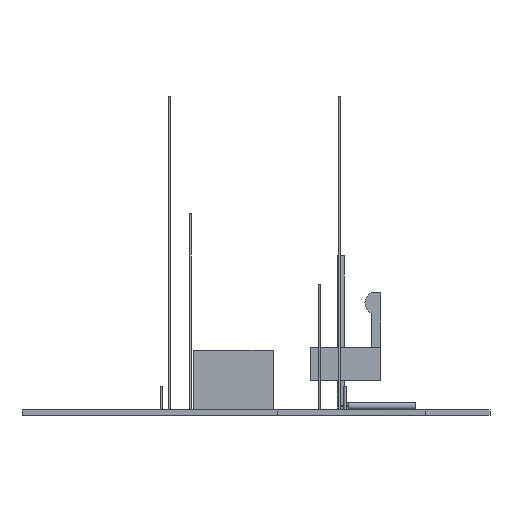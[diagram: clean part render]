
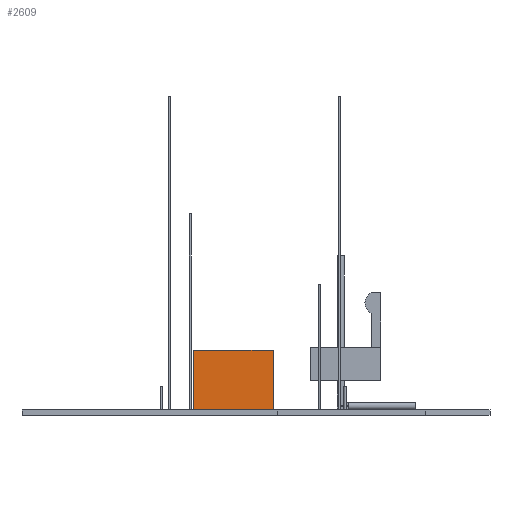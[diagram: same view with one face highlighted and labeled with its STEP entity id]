
A CAD part, left-side view. The second image highlights one B-rep face of the part: STEP entity #2609.
In plain terms, the highlighted planar face has unit normal (-1, 0, 0) as drawn and (0, 1, 0) by its records, which use the part's own axes.
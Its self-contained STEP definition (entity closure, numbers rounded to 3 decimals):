
#2609=ADVANCED_FACE('',(#4463),#4464,.F.);
#4463=FACE_OUTER_BOUND('',#5928,.T.);
#4464=PLANE('',#5929);
#5928=EDGE_LOOP('',(#7711,#7712,#7713,#7714));
#5929=AXIS2_PLACEMENT_3D('',#7715,#7716,#7717);
#7711=ORIENTED_EDGE('',*,*,#8491,.T.);
#7712=ORIENTED_EDGE('',*,*,#8498,.T.);
#7713=ORIENTED_EDGE('',*,*,#8494,.F.);
#7714=ORIENTED_EDGE('',*,*,#8499,.F.);
#7715=CARTESIAN_POINT('',(0.35,7.855,0.0));
#7716=DIRECTION('',(0.0,-1.0,0.0));
#7717=DIRECTION('',(0.0,0.0,-1.0));
#8491=EDGE_CURVE('',#9483,#9487,#9489,.T.);
#8494=EDGE_CURVE('',#9492,#9494,#9495,.T.);
#8498=EDGE_CURVE('',#9487,#9494,#9500,.T.);
#8499=EDGE_CURVE('',#9483,#9492,#9501,.T.);
#9483=VERTEX_POINT('',#10779);
#9487=VERTEX_POINT('',#10785);
#9489=LINE('',#10788,#10789);
#9492=VERTEX_POINT('',#10792);
#9494=VERTEX_POINT('',#10795);
#9495=LINE('',#10796,#10797);
#9500=LINE('',#10804,#10805);
#9501=LINE('',#10806,#10807);
#10779=CARTESIAN_POINT('',(0.35,7.855,5.3));
#10785=CARTESIAN_POINT('',(7.45,7.855,5.3));
#10788=CARTESIAN_POINT('',(3.9,7.855,5.3));
#10789=VECTOR('',#11540,1.0);
#10792=CARTESIAN_POINT('',(0.35,7.855,0.0));
#10795=CARTESIAN_POINT('',(7.45,7.855,0.0));
#10796=CARTESIAN_POINT('',(0.35,7.855,0.0));
#10797=VECTOR('',#11542,1.0);
#10804=CARTESIAN_POINT('',(7.45,7.855,2.65));
#10805=VECTOR('',#11545,1.0);
#10806=CARTESIAN_POINT('',(0.35,7.855,2.65));
#10807=VECTOR('',#11546,1.0);
#11540=DIRECTION('',(1.0,0.0,0.0));
#11542=DIRECTION('',(1.0,0.0,0.0));
#11545=DIRECTION('',(-0.0,-0.0,-1.0));
#11546=DIRECTION('',(-0.0,-0.0,-1.0));
